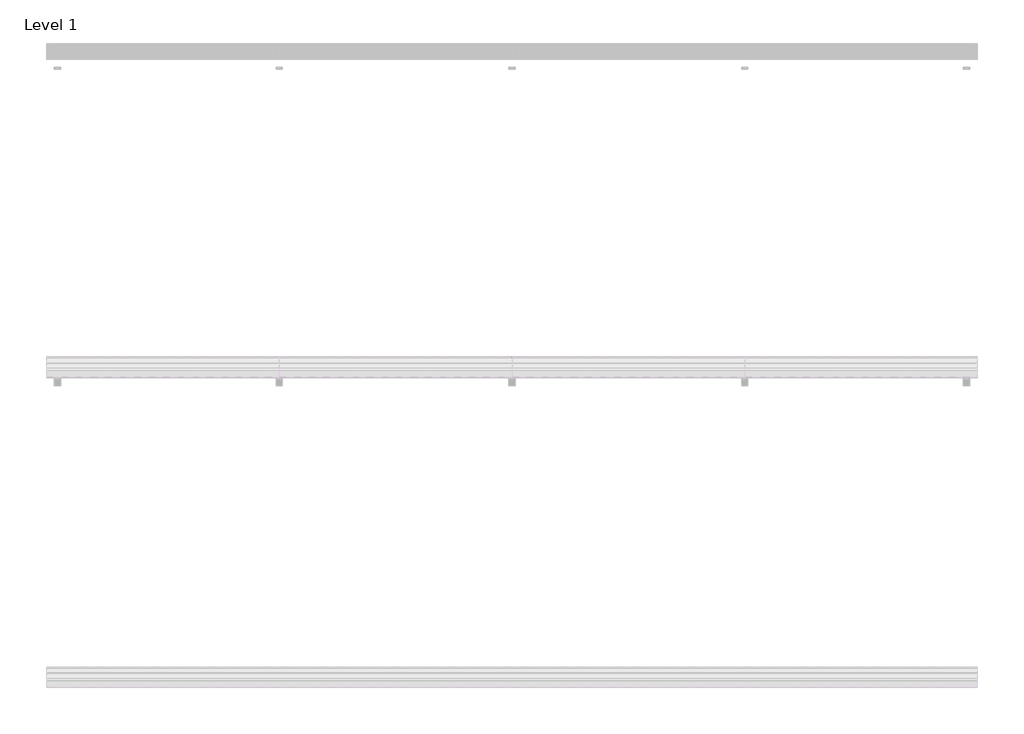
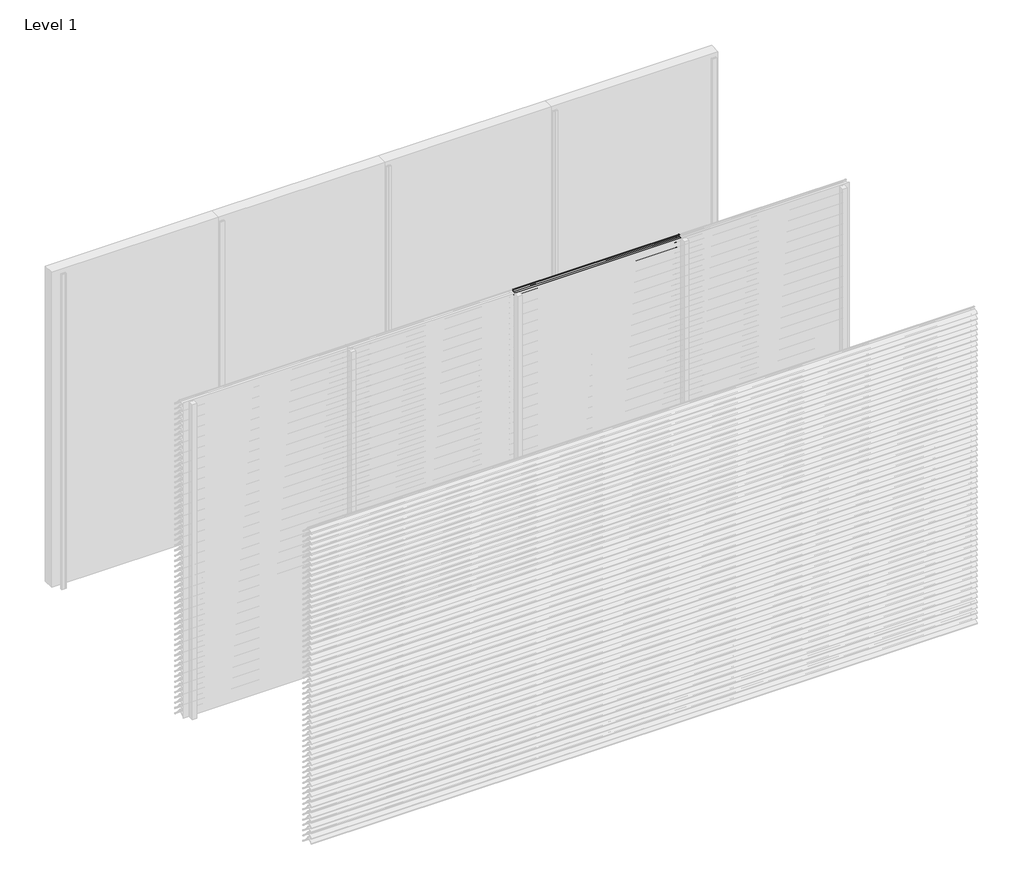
# One storey, part 81 of 173: 18 proxies.
"""IFC4 building model written with IfcOpenShell, lengths in millimetres."""

from ifc_helpers import new_model, si_unit, point, frame, frame_2d, origin, place, context, project, spatial, polyline, circle_curve, trimmed, segment, composite_curve, outline, extrude, element, save

model = new_model("IFC4")

# Units and contexts
model_context = context("Model", 3, world=origin())
ifc_project = project(units=[si_unit("LENGTHUNIT", "METRE", prefix="MILLI")], contexts=[model_context])

# Site, building, storey
site = spatial("IfcSite", under=ifc_project)
building = spatial("IfcBuilding", under=site)
storey = spatial("IfcBuildingStorey", under=building, Name="Level 1", Elevation=0.0)

# Proxies
placement = place(None, origin())
element("IfcBuildingElementProxy", 1, Name="Wall Sweeps", at=placement, inside=storey, context=model_context, shape_type="SweptSolid", body=[
    extrude(outline(composite_curve([segment(polyline([(-29998.0, 709.1474905), (-29998.0, 711.6227417)]), True, "CONTINUOUS"), segment(trimmed(circle_curve(frame_2d((-29951.2682172, 666.2200208)), 65.1557103), [point((-29998.0, 711.6227417))], [point((-29954.4014323, 731.3003524))], False, "CARTESIAN"), True, "CONTINUOUS"), segment(polyline([(-29954.4014323, 731.3003524), (-29934.8315836, 731.3003524)]), True, "CONTINUOUS"), segment(trimmed(circle_curve(frame_2d((-29732.7329489, 878.5533172)), 250.0545817), [point((-29934.8315836, 731.3003524))], [point((-29941.4452143, 740.8344583))], False, "CARTESIAN"), True, "CONTINUOUS"), segment(trimmed(circle_curve(frame_2d((-29953.2981792, 735.1737835)), 13.1352966), [point((-29941.4452143, 740.8344583))], [point((-29953.8171475, 748.298824))], True, "CARTESIAN"), True, "CONTINUOUS"), segment(polyline([(-29953.8171475, 748.298824), (-29953.8171475, 750.0)]), True, "CONTINUOUS"), segment(trimmed(circle_curve(frame_2d((-29953.2981792, 735.1737835)), 14.8352966), [point((-29953.8171475, 750.0))], [point((-29939.9637661, 741.6760487))], False, "CARTESIAN"), True, "CONTINUOUS"), segment(trimmed(circle_curve(frame_2d((-29732.7329489, 878.5533172)), 248.3545817), [point((-29939.9637661, 741.6760487))], [point((-29873.8787895, 674.2059416))], True, "CARTESIAN"), True, "CONTINUOUS"), segment(trimmed(circle_curve(frame_2d((-29883.8147537, 661.6649442)), 16.0), [point((-29873.8787895, 674.2059416))], [point((-29867.8648347, 660.4))], False, "CARTESIAN"), True, "CONTINUOUS"), segment(polyline([(-29867.8648347, 660.4), (-29869.6712069, 660.4)]), True, "CONTINUOUS"), segment(trimmed(circle_curve(frame_2d((-29883.8147537, 661.6649442)), 14.2), [point((-29869.6712069, 660.4))], [point((-29874.9518628, 672.7594998))], True, "CARTESIAN"), True, "CONTINUOUS"), segment(trimmed(circle_curve(frame_2d((-29732.7329489, 878.5533172)), 250.1545817), [point((-29874.9518628, 672.7594998))], [point((-29933.7064024, 729.6003524))], False, "CARTESIAN"), True, "CONTINUOUS"), segment(polyline([(-29933.7064024, 729.6003524), (-29954.3602632, 729.6003524)]), True, "CONTINUOUS"), segment(trimmed(circle_curve(frame_2d((-29951.2682172, 666.2200208)), 63.4557103), [point((-29954.3602632, 729.6003524))], [point((-29998.0, 709.1474905))], True, "CARTESIAN"), True, "CONTINUOUS")], self_intersect=False)), frame((1500.0, 0.0, 0.0), z_axis=(1.0, 0.0, 0.0), x_axis=(0.0, 1.0, 0.0)), (0.0, 0.0, 1.0), 1500.0),
])
element("IfcBuildingElementProxy", 2, Name="Wall Sweeps", at=placement, inside=storey, context=model_context, shape_type="SweptSolid", body=[
    extrude(outline(composite_curve([segment(polyline([(-29998.0, 659.1474905), (-29998.0, 661.6227417)]), True, "CONTINUOUS"), segment(trimmed(circle_curve(frame_2d((-29951.2682172, 616.2200208)), 65.1557103), [point((-29998.0, 661.6227417))], [point((-29954.4014323, 681.3003524))], False, "CARTESIAN"), True, "CONTINUOUS"), segment(polyline([(-29954.4014323, 681.3003524), (-29934.8315836, 681.3003524)]), True, "CONTINUOUS"), segment(trimmed(circle_curve(frame_2d((-29732.7329489, 828.5533172)), 250.0545817), [point((-29934.8315836, 681.3003524))], [point((-29941.4452143, 690.8344583))], False, "CARTESIAN"), True, "CONTINUOUS"), segment(trimmed(circle_curve(frame_2d((-29953.2981792, 685.1737835)), 13.1352966), [point((-29941.4452143, 690.8344583))], [point((-29953.8171475, 698.298824))], True, "CARTESIAN"), True, "CONTINUOUS"), segment(polyline([(-29953.8171475, 698.298824), (-29953.8171475, 700.0)]), True, "CONTINUOUS"), segment(trimmed(circle_curve(frame_2d((-29953.2981792, 685.1737835)), 14.8352966), [point((-29953.8171475, 700.0))], [point((-29939.9637661, 691.6760487))], False, "CARTESIAN"), True, "CONTINUOUS"), segment(trimmed(circle_curve(frame_2d((-29732.7329489, 828.5533172)), 248.3545817), [point((-29939.9637661, 691.6760487))], [point((-29873.8787895, 624.2059416))], True, "CARTESIAN"), True, "CONTINUOUS"), segment(trimmed(circle_curve(frame_2d((-29883.8147537, 611.6649442)), 16.0), [point((-29873.8787895, 624.2059416))], [point((-29867.8648347, 610.4))], False, "CARTESIAN"), True, "CONTINUOUS"), segment(polyline([(-29867.8648347, 610.4), (-29869.6712069, 610.4)]), True, "CONTINUOUS"), segment(trimmed(circle_curve(frame_2d((-29883.8147537, 611.6649442)), 14.2), [point((-29869.6712069, 610.4))], [point((-29874.9518628, 622.7594998))], True, "CARTESIAN"), True, "CONTINUOUS"), segment(trimmed(circle_curve(frame_2d((-29732.7329489, 828.5533172)), 250.1545817), [point((-29874.9518628, 622.7594998))], [point((-29933.7064024, 679.6003524))], False, "CARTESIAN"), True, "CONTINUOUS"), segment(polyline([(-29933.7064024, 679.6003524), (-29954.3602632, 679.6003524)]), True, "CONTINUOUS"), segment(trimmed(circle_curve(frame_2d((-29951.2682172, 616.2200208)), 63.4557103), [point((-29954.3602632, 679.6003524))], [point((-29998.0, 659.1474905))], True, "CARTESIAN"), True, "CONTINUOUS")], self_intersect=False)), frame((1500.0, 0.0, 0.0), z_axis=(1.0, 0.0, 0.0), x_axis=(0.0, 1.0, 0.0)), (0.0, 0.0, 1.0), 1500.0),
])
element("IfcBuildingElementProxy", 3, Name="Wall Sweeps", at=placement, inside=storey, context=model_context, shape_type="SweptSolid", body=[
    extrude(outline(composite_curve([segment(polyline([(-29998.0, 609.1474905), (-29998.0, 611.6227417)]), True, "CONTINUOUS"), segment(trimmed(circle_curve(frame_2d((-29951.2682172, 566.2200208)), 65.1557103), [point((-29998.0, 611.6227417))], [point((-29954.4014323, 631.3003524))], False, "CARTESIAN"), True, "CONTINUOUS"), segment(polyline([(-29954.4014323, 631.3003524), (-29934.8315836, 631.3003524)]), True, "CONTINUOUS"), segment(trimmed(circle_curve(frame_2d((-29732.7329489, 778.5533172)), 250.0545817), [point((-29934.8315836, 631.3003524))], [point((-29941.4452143, 640.8344583))], False, "CARTESIAN"), True, "CONTINUOUS"), segment(trimmed(circle_curve(frame_2d((-29953.2981792, 635.1737835)), 13.1352966), [point((-29941.4452143, 640.8344583))], [point((-29953.8171475, 648.298824))], True, "CARTESIAN"), True, "CONTINUOUS"), segment(polyline([(-29953.8171475, 648.298824), (-29953.8171475, 650.0)]), True, "CONTINUOUS"), segment(trimmed(circle_curve(frame_2d((-29953.2981792, 635.1737835)), 14.8352966), [point((-29953.8171475, 650.0))], [point((-29939.9637661, 641.6760487))], False, "CARTESIAN"), True, "CONTINUOUS"), segment(trimmed(circle_curve(frame_2d((-29732.7329489, 778.5533172)), 248.3545817), [point((-29939.9637661, 641.6760487))], [point((-29873.8787895, 574.2059416))], True, "CARTESIAN"), True, "CONTINUOUS"), segment(trimmed(circle_curve(frame_2d((-29883.8147537, 561.6649442)), 16.0), [point((-29873.8787895, 574.2059416))], [point((-29867.8648347, 560.4))], False, "CARTESIAN"), True, "CONTINUOUS"), segment(polyline([(-29867.8648347, 560.4), (-29869.6712069, 560.4)]), True, "CONTINUOUS"), segment(trimmed(circle_curve(frame_2d((-29883.8147537, 561.6649442)), 14.2), [point((-29869.6712069, 560.4))], [point((-29874.9518628, 572.7594998))], True, "CARTESIAN"), True, "CONTINUOUS"), segment(trimmed(circle_curve(frame_2d((-29732.7329489, 778.5533172)), 250.1545817), [point((-29874.9518628, 572.7594998))], [point((-29933.7064024, 629.6003524))], False, "CARTESIAN"), True, "CONTINUOUS"), segment(polyline([(-29933.7064024, 629.6003524), (-29954.3602632, 629.6003524)]), True, "CONTINUOUS"), segment(trimmed(circle_curve(frame_2d((-29951.2682172, 566.2200208)), 63.4557103), [point((-29954.3602632, 629.6003524))], [point((-29998.0, 609.1474905))], True, "CARTESIAN"), True, "CONTINUOUS")], self_intersect=False)), frame((1500.0, 0.0, 0.0), z_axis=(1.0, 0.0, 0.0), x_axis=(0.0, 1.0, 0.0)), (0.0, 0.0, 1.0), 1500.0),
])
element("IfcBuildingElementProxy", 4, Name="Wall Sweeps", at=placement, inside=storey, context=model_context, shape_type="SweptSolid", body=[
    extrude(outline(composite_curve([segment(polyline([(-29998.0, 559.1474905), (-29998.0, 561.6227417)]), True, "CONTINUOUS"), segment(trimmed(circle_curve(frame_2d((-29951.2682172, 516.2200208)), 65.1557103), [point((-29998.0, 561.6227417))], [point((-29954.4014323, 581.3003524))], False, "CARTESIAN"), True, "CONTINUOUS"), segment(polyline([(-29954.4014323, 581.3003524), (-29934.8315836, 581.3003524)]), True, "CONTINUOUS"), segment(trimmed(circle_curve(frame_2d((-29732.7329489, 728.5533172)), 250.0545817), [point((-29934.8315836, 581.3003524))], [point((-29941.4452143, 590.8344583))], False, "CARTESIAN"), True, "CONTINUOUS"), segment(trimmed(circle_curve(frame_2d((-29953.2981792, 585.1737835)), 13.1352966), [point((-29941.4452143, 590.8344583))], [point((-29953.8171475, 598.298824))], True, "CARTESIAN"), True, "CONTINUOUS"), segment(polyline([(-29953.8171475, 598.298824), (-29953.8171475, 600.0)]), True, "CONTINUOUS"), segment(trimmed(circle_curve(frame_2d((-29953.2981792, 585.1737835)), 14.8352966), [point((-29953.8171475, 600.0))], [point((-29939.9637661, 591.6760487))], False, "CARTESIAN"), True, "CONTINUOUS"), segment(trimmed(circle_curve(frame_2d((-29732.7329489, 728.5533172)), 248.3545817), [point((-29939.9637661, 591.6760487))], [point((-29873.8787895, 524.2059416))], True, "CARTESIAN"), True, "CONTINUOUS"), segment(trimmed(circle_curve(frame_2d((-29883.8147537, 511.6649442)), 16.0), [point((-29873.8787895, 524.2059416))], [point((-29867.8648347, 510.4))], False, "CARTESIAN"), True, "CONTINUOUS"), segment(polyline([(-29867.8648347, 510.4), (-29869.6712069, 510.4)]), True, "CONTINUOUS"), segment(trimmed(circle_curve(frame_2d((-29883.8147537, 511.6649442)), 14.2), [point((-29869.6712069, 510.4))], [point((-29874.9518628, 522.7594998))], True, "CARTESIAN"), True, "CONTINUOUS"), segment(trimmed(circle_curve(frame_2d((-29732.7329489, 728.5533172)), 250.1545817), [point((-29874.9518628, 522.7594998))], [point((-29933.7064024, 579.6003524))], False, "CARTESIAN"), True, "CONTINUOUS"), segment(polyline([(-29933.7064024, 579.6003524), (-29954.3602632, 579.6003524)]), True, "CONTINUOUS"), segment(trimmed(circle_curve(frame_2d((-29951.2682172, 516.2200208)), 63.4557103), [point((-29954.3602632, 579.6003524))], [point((-29998.0, 559.1474905))], True, "CARTESIAN"), True, "CONTINUOUS")], self_intersect=False)), frame((1500.0, 0.0, 0.0), z_axis=(1.0, 0.0, 0.0), x_axis=(0.0, 1.0, 0.0)), (0.0, 0.0, 1.0), 1500.0),
])
element("IfcBuildingElementProxy", 5, Name="Wall Sweeps", at=placement, inside=storey, context=model_context, shape_type="SweptSolid", body=[
    extrude(outline(composite_curve([segment(polyline([(-29998.0, 509.1474905), (-29998.0, 511.6227417)]), True, "CONTINUOUS"), segment(trimmed(circle_curve(frame_2d((-29951.2682172, 466.2200208)), 65.1557103), [point((-29998.0, 511.6227417))], [point((-29954.4014323, 531.3003524))], False, "CARTESIAN"), True, "CONTINUOUS"), segment(polyline([(-29954.4014323, 531.3003524), (-29934.8315836, 531.3003524)]), True, "CONTINUOUS"), segment(trimmed(circle_curve(frame_2d((-29732.7329489, 678.5533172)), 250.0545817), [point((-29934.8315836, 531.3003524))], [point((-29941.4452143, 540.8344583))], False, "CARTESIAN"), True, "CONTINUOUS"), segment(trimmed(circle_curve(frame_2d((-29953.2981792, 535.1737835)), 13.1352966), [point((-29941.4452143, 540.8344583))], [point((-29953.8171475, 548.298824))], True, "CARTESIAN"), True, "CONTINUOUS"), segment(polyline([(-29953.8171475, 548.298824), (-29953.8171475, 550.0)]), True, "CONTINUOUS"), segment(trimmed(circle_curve(frame_2d((-29953.2981792, 535.1737835)), 14.8352966), [point((-29953.8171475, 550.0))], [point((-29939.9637661, 541.6760487))], False, "CARTESIAN"), True, "CONTINUOUS"), segment(trimmed(circle_curve(frame_2d((-29732.7329489, 678.5533172)), 248.3545817), [point((-29939.9637661, 541.6760487))], [point((-29873.8787895, 474.2059416))], True, "CARTESIAN"), True, "CONTINUOUS"), segment(trimmed(circle_curve(frame_2d((-29883.8147537, 461.6649442)), 16.0), [point((-29873.8787895, 474.2059416))], [point((-29867.8648347, 460.4))], False, "CARTESIAN"), True, "CONTINUOUS"), segment(polyline([(-29867.8648347, 460.4), (-29869.6712069, 460.4)]), True, "CONTINUOUS"), segment(trimmed(circle_curve(frame_2d((-29883.8147537, 461.6649442)), 14.2), [point((-29869.6712069, 460.4))], [point((-29874.9518628, 472.7594998))], True, "CARTESIAN"), True, "CONTINUOUS"), segment(trimmed(circle_curve(frame_2d((-29732.7329489, 678.5533172)), 250.1545817), [point((-29874.9518628, 472.7594998))], [point((-29933.7064024, 529.6003524))], False, "CARTESIAN"), True, "CONTINUOUS"), segment(polyline([(-29933.7064024, 529.6003524), (-29954.3602632, 529.6003524)]), True, "CONTINUOUS"), segment(trimmed(circle_curve(frame_2d((-29951.2682172, 466.2200208)), 63.4557103), [point((-29954.3602632, 529.6003524))], [point((-29998.0, 509.1474905))], True, "CARTESIAN"), True, "CONTINUOUS")], self_intersect=False)), frame((1500.0, 0.0, 0.0), z_axis=(1.0, 0.0, 0.0), x_axis=(0.0, 1.0, 0.0)), (0.0, 0.0, 1.0), 1500.0),
])
element("IfcBuildingElementProxy", 6, Name="Wall Sweeps", at=placement, inside=storey, context=model_context, shape_type="SweptSolid", body=[
    extrude(outline(composite_curve([segment(polyline([(-29998.0, 459.1474905), (-29998.0, 461.6227417)]), True, "CONTINUOUS"), segment(trimmed(circle_curve(frame_2d((-29951.2682172, 416.2200208)), 65.1557103), [point((-29998.0, 461.6227417))], [point((-29954.4014323, 481.3003524))], False, "CARTESIAN"), True, "CONTINUOUS"), segment(polyline([(-29954.4014323, 481.3003524), (-29934.8315836, 481.3003524)]), True, "CONTINUOUS"), segment(trimmed(circle_curve(frame_2d((-29732.7329489, 628.5533172)), 250.0545817), [point((-29934.8315836, 481.3003524))], [point((-29941.4452143, 490.8344583))], False, "CARTESIAN"), True, "CONTINUOUS"), segment(trimmed(circle_curve(frame_2d((-29953.2981792, 485.1737835)), 13.1352966), [point((-29941.4452143, 490.8344583))], [point((-29953.8171475, 498.298824))], True, "CARTESIAN"), True, "CONTINUOUS"), segment(polyline([(-29953.8171475, 498.298824), (-29953.8171475, 500.0)]), True, "CONTINUOUS"), segment(trimmed(circle_curve(frame_2d((-29953.2981792, 485.1737835)), 14.8352966), [point((-29953.8171475, 500.0))], [point((-29939.9637661, 491.6760487))], False, "CARTESIAN"), True, "CONTINUOUS"), segment(trimmed(circle_curve(frame_2d((-29732.7329489, 628.5533172)), 248.3545817), [point((-29939.9637661, 491.6760487))], [point((-29873.8787895, 424.2059416))], True, "CARTESIAN"), True, "CONTINUOUS"), segment(trimmed(circle_curve(frame_2d((-29883.8147537, 411.6649442)), 16.0), [point((-29873.8787895, 424.2059416))], [point((-29867.8648347, 410.4))], False, "CARTESIAN"), True, "CONTINUOUS"), segment(polyline([(-29867.8648347, 410.4), (-29869.6712069, 410.4)]), True, "CONTINUOUS"), segment(trimmed(circle_curve(frame_2d((-29883.8147537, 411.6649442)), 14.2), [point((-29869.6712069, 410.4))], [point((-29874.9518628, 422.7594998))], True, "CARTESIAN"), True, "CONTINUOUS"), segment(trimmed(circle_curve(frame_2d((-29732.7329489, 628.5533172)), 250.1545817), [point((-29874.9518628, 422.7594998))], [point((-29933.7064024, 479.6003524))], False, "CARTESIAN"), True, "CONTINUOUS"), segment(polyline([(-29933.7064024, 479.6003524), (-29954.3602632, 479.6003524)]), True, "CONTINUOUS"), segment(trimmed(circle_curve(frame_2d((-29951.2682172, 416.2200208)), 63.4557103), [point((-29954.3602632, 479.6003524))], [point((-29998.0, 459.1474905))], True, "CARTESIAN"), True, "CONTINUOUS")], self_intersect=False)), frame((1500.0, 0.0, 0.0), z_axis=(1.0, 0.0, 0.0), x_axis=(0.0, 1.0, 0.0)), (0.0, 0.0, 1.0), 1500.0),
])
element("IfcBuildingElementProxy", 7, Name="Wall Sweeps", at=placement, inside=storey, context=model_context, shape_type="SweptSolid", body=[
    extrude(outline(composite_curve([segment(polyline([(-29998.0, 409.1474905), (-29998.0, 411.6227417)]), True, "CONTINUOUS"), segment(trimmed(circle_curve(frame_2d((-29951.2682172, 366.2200208)), 65.1557103), [point((-29998.0, 411.6227417))], [point((-29954.4014323, 431.3003524))], False, "CARTESIAN"), True, "CONTINUOUS"), segment(polyline([(-29954.4014323, 431.3003524), (-29934.8315836, 431.3003524)]), True, "CONTINUOUS"), segment(trimmed(circle_curve(frame_2d((-29732.7329489, 578.5533172)), 250.0545817), [point((-29934.8315836, 431.3003524))], [point((-29941.4452143, 440.8344583))], False, "CARTESIAN"), True, "CONTINUOUS"), segment(trimmed(circle_curve(frame_2d((-29953.2981792, 435.1737835)), 13.1352966), [point((-29941.4452143, 440.8344583))], [point((-29953.8171475, 448.298824))], True, "CARTESIAN"), True, "CONTINUOUS"), segment(polyline([(-29953.8171475, 448.298824), (-29953.8171475, 450.0)]), True, "CONTINUOUS"), segment(trimmed(circle_curve(frame_2d((-29953.2981792, 435.1737835)), 14.8352966), [point((-29953.8171475, 450.0))], [point((-29939.9637661, 441.6760487))], False, "CARTESIAN"), True, "CONTINUOUS"), segment(trimmed(circle_curve(frame_2d((-29732.7329489, 578.5533172)), 248.3545817), [point((-29939.9637661, 441.6760487))], [point((-29873.8787895, 374.2059416))], True, "CARTESIAN"), True, "CONTINUOUS"), segment(trimmed(circle_curve(frame_2d((-29883.8147537, 361.6649442)), 16.0), [point((-29873.8787895, 374.2059416))], [point((-29867.8648347, 360.4))], False, "CARTESIAN"), True, "CONTINUOUS"), segment(polyline([(-29867.8648347, 360.4), (-29869.6712069, 360.4)]), True, "CONTINUOUS"), segment(trimmed(circle_curve(frame_2d((-29883.8147537, 361.6649442)), 14.2), [point((-29869.6712069, 360.4))], [point((-29874.9518628, 372.7594998))], True, "CARTESIAN"), True, "CONTINUOUS"), segment(trimmed(circle_curve(frame_2d((-29732.7329489, 578.5533172)), 250.1545817), [point((-29874.9518628, 372.7594998))], [point((-29933.7064024, 429.6003524))], False, "CARTESIAN"), True, "CONTINUOUS"), segment(polyline([(-29933.7064024, 429.6003524), (-29954.3602632, 429.6003524)]), True, "CONTINUOUS"), segment(trimmed(circle_curve(frame_2d((-29951.2682172, 366.2200208)), 63.4557103), [point((-29954.3602632, 429.6003524))], [point((-29998.0, 409.1474905))], True, "CARTESIAN"), True, "CONTINUOUS")], self_intersect=False)), frame((1500.0, 0.0, 0.0), z_axis=(1.0, 0.0, 0.0), x_axis=(0.0, 1.0, 0.0)), (0.0, 0.0, 1.0), 1500.0),
])
element("IfcBuildingElementProxy", 8, Name="Wall Sweeps", at=placement, inside=storey, context=model_context, shape_type="SweptSolid", body=[
    extrude(outline(composite_curve([segment(polyline([(-29998.0, 359.1474905), (-29998.0, 361.6227417)]), True, "CONTINUOUS"), segment(trimmed(circle_curve(frame_2d((-29951.2682172, 316.2200208)), 65.1557103), [point((-29998.0, 361.6227417))], [point((-29954.4014323, 381.3003524))], False, "CARTESIAN"), True, "CONTINUOUS"), segment(polyline([(-29954.4014323, 381.3003524), (-29934.8315836, 381.3003524)]), True, "CONTINUOUS"), segment(trimmed(circle_curve(frame_2d((-29732.7329489, 528.5533172)), 250.0545817), [point((-29934.8315836, 381.3003524))], [point((-29941.4452143, 390.8344583))], False, "CARTESIAN"), True, "CONTINUOUS"), segment(trimmed(circle_curve(frame_2d((-29953.2981792, 385.1737835)), 13.1352966), [point((-29941.4452143, 390.8344583))], [point((-29953.8171475, 398.298824))], True, "CARTESIAN"), True, "CONTINUOUS"), segment(polyline([(-29953.8171475, 398.298824), (-29953.8171475, 400.0)]), True, "CONTINUOUS"), segment(trimmed(circle_curve(frame_2d((-29953.2981792, 385.1737835)), 14.8352966), [point((-29953.8171475, 400.0))], [point((-29939.9637661, 391.6760487))], False, "CARTESIAN"), True, "CONTINUOUS"), segment(trimmed(circle_curve(frame_2d((-29732.7329489, 528.5533172)), 248.3545817), [point((-29939.9637661, 391.6760487))], [point((-29873.8787895, 324.2059416))], True, "CARTESIAN"), True, "CONTINUOUS"), segment(trimmed(circle_curve(frame_2d((-29883.8147537, 311.6649442)), 16.0), [point((-29873.8787895, 324.2059416))], [point((-29867.8648347, 310.4))], False, "CARTESIAN"), True, "CONTINUOUS"), segment(polyline([(-29867.8648347, 310.4), (-29869.6712069, 310.4)]), True, "CONTINUOUS"), segment(trimmed(circle_curve(frame_2d((-29883.8147537, 311.6649442)), 14.2), [point((-29869.6712069, 310.4))], [point((-29874.9518628, 322.7594998))], True, "CARTESIAN"), True, "CONTINUOUS"), segment(trimmed(circle_curve(frame_2d((-29732.7329489, 528.5533172)), 250.1545817), [point((-29874.9518628, 322.7594998))], [point((-29933.7064024, 379.6003524))], False, "CARTESIAN"), True, "CONTINUOUS"), segment(polyline([(-29933.7064024, 379.6003524), (-29954.3602632, 379.6003524)]), True, "CONTINUOUS"), segment(trimmed(circle_curve(frame_2d((-29951.2682172, 316.2200208)), 63.4557103), [point((-29954.3602632, 379.6003524))], [point((-29998.0, 359.1474905))], True, "CARTESIAN"), True, "CONTINUOUS")], self_intersect=False)), frame((1500.0, 0.0, 0.0), z_axis=(1.0, 0.0, 0.0), x_axis=(0.0, 1.0, 0.0)), (0.0, 0.0, 1.0), 1500.0),
])
element("IfcBuildingElementProxy", 9, Name="Wall Sweeps", at=placement, inside=storey, context=model_context, shape_type="SweptSolid", body=[
    extrude(outline(composite_curve([segment(polyline([(-29998.0, 309.1474905), (-29998.0, 311.6227417)]), True, "CONTINUOUS"), segment(trimmed(circle_curve(frame_2d((-29951.2682172, 266.2200208)), 65.1557103), [point((-29998.0, 311.6227417))], [point((-29954.4014323, 331.3003524))], False, "CARTESIAN"), True, "CONTINUOUS"), segment(polyline([(-29954.4014323, 331.3003524), (-29934.8315836, 331.3003524)]), True, "CONTINUOUS"), segment(trimmed(circle_curve(frame_2d((-29732.7329489, 478.5533172)), 250.0545817), [point((-29934.8315836, 331.3003524))], [point((-29941.4452143, 340.8344583))], False, "CARTESIAN"), True, "CONTINUOUS"), segment(trimmed(circle_curve(frame_2d((-29953.2981792, 335.1737835)), 13.1352966), [point((-29941.4452143, 340.8344583))], [point((-29953.8171475, 348.298824))], True, "CARTESIAN"), True, "CONTINUOUS"), segment(polyline([(-29953.8171475, 348.298824), (-29953.8171475, 350.0)]), True, "CONTINUOUS"), segment(trimmed(circle_curve(frame_2d((-29953.2981792, 335.1737835)), 14.8352966), [point((-29953.8171475, 350.0))], [point((-29939.9637661, 341.6760487))], False, "CARTESIAN"), True, "CONTINUOUS"), segment(trimmed(circle_curve(frame_2d((-29732.7329489, 478.5533172)), 248.3545817), [point((-29939.9637661, 341.6760487))], [point((-29873.8787895, 274.2059416))], True, "CARTESIAN"), True, "CONTINUOUS"), segment(trimmed(circle_curve(frame_2d((-29883.8147537, 261.6649442)), 16.0), [point((-29873.8787895, 274.2059416))], [point((-29867.8648347, 260.4))], False, "CARTESIAN"), True, "CONTINUOUS"), segment(polyline([(-29867.8648347, 260.4), (-29869.6712069, 260.4)]), True, "CONTINUOUS"), segment(trimmed(circle_curve(frame_2d((-29883.8147537, 261.6649442)), 14.2), [point((-29869.6712069, 260.4))], [point((-29874.9518628, 272.7594998))], True, "CARTESIAN"), True, "CONTINUOUS"), segment(trimmed(circle_curve(frame_2d((-29732.7329489, 478.5533172)), 250.1545817), [point((-29874.9518628, 272.7594998))], [point((-29933.7064024, 329.6003524))], False, "CARTESIAN"), True, "CONTINUOUS"), segment(polyline([(-29933.7064024, 329.6003524), (-29954.3602632, 329.6003524)]), True, "CONTINUOUS"), segment(trimmed(circle_curve(frame_2d((-29951.2682172, 266.2200208)), 63.4557103), [point((-29954.3602632, 329.6003524))], [point((-29998.0, 309.1474905))], True, "CARTESIAN"), True, "CONTINUOUS")], self_intersect=False)), frame((1500.0, 0.0, 0.0), z_axis=(1.0, 0.0, 0.0), x_axis=(0.0, 1.0, 0.0)), (0.0, 0.0, 1.0), 1500.0),
])
element("IfcBuildingElementProxy", 10, Name="Wall Sweeps", at=placement, inside=storey, context=model_context, shape_type="SweptSolid", body=[
    extrude(outline(composite_curve([segment(polyline([(-29998.0, 259.1474905), (-29998.0, 261.6227417)]), True, "CONTINUOUS"), segment(trimmed(circle_curve(frame_2d((-29951.2682172, 216.2200208)), 65.1557103), [point((-29998.0, 261.6227417))], [point((-29954.4014323, 281.3003524))], False, "CARTESIAN"), True, "CONTINUOUS"), segment(polyline([(-29954.4014323, 281.3003524), (-29934.8315836, 281.3003524)]), True, "CONTINUOUS"), segment(trimmed(circle_curve(frame_2d((-29732.7329489, 428.5533172)), 250.0545817), [point((-29934.8315836, 281.3003524))], [point((-29941.4452143, 290.8344583))], False, "CARTESIAN"), True, "CONTINUOUS"), segment(trimmed(circle_curve(frame_2d((-29953.2981792, 285.1737835)), 13.1352966), [point((-29941.4452143, 290.8344583))], [point((-29953.8171475, 298.298824))], True, "CARTESIAN"), True, "CONTINUOUS"), segment(polyline([(-29953.8171475, 298.298824), (-29953.8171475, 300.0)]), True, "CONTINUOUS"), segment(trimmed(circle_curve(frame_2d((-29953.2981792, 285.1737835)), 14.8352966), [point((-29953.8171475, 300.0))], [point((-29939.9637661, 291.6760487))], False, "CARTESIAN"), True, "CONTINUOUS"), segment(trimmed(circle_curve(frame_2d((-29732.7329489, 428.5533172)), 248.3545817), [point((-29939.9637661, 291.6760487))], [point((-29873.8787895, 224.2059416))], True, "CARTESIAN"), True, "CONTINUOUS"), segment(trimmed(circle_curve(frame_2d((-29883.8147537, 211.6649442)), 16.0), [point((-29873.8787895, 224.2059416))], [point((-29867.8648347, 210.4))], False, "CARTESIAN"), True, "CONTINUOUS"), segment(polyline([(-29867.8648347, 210.4), (-29869.6712069, 210.4)]), True, "CONTINUOUS"), segment(trimmed(circle_curve(frame_2d((-29883.8147537, 211.6649442)), 14.2), [point((-29869.6712069, 210.4))], [point((-29874.9518628, 222.7594998))], True, "CARTESIAN"), True, "CONTINUOUS"), segment(trimmed(circle_curve(frame_2d((-29732.7329489, 428.5533172)), 250.1545817), [point((-29874.9518628, 222.7594998))], [point((-29933.7064024, 279.6003524))], False, "CARTESIAN"), True, "CONTINUOUS"), segment(polyline([(-29933.7064024, 279.6003524), (-29954.3602632, 279.6003524)]), True, "CONTINUOUS"), segment(trimmed(circle_curve(frame_2d((-29951.2682172, 216.2200208)), 63.4557103), [point((-29954.3602632, 279.6003524))], [point((-29998.0, 259.1474905))], True, "CARTESIAN"), True, "CONTINUOUS")], self_intersect=False)), frame((1500.0, 0.0, 0.0), z_axis=(1.0, 0.0, 0.0), x_axis=(0.0, 1.0, 0.0)), (0.0, 0.0, 1.0), 1500.0),
])
element("IfcBuildingElementProxy", 11, Name="Wall Sweeps", at=placement, inside=storey, context=model_context, shape_type="SweptSolid", body=[
    extrude(outline(composite_curve([segment(polyline([(-29998.0, 209.1474905), (-29998.0, 211.6227417)]), True, "CONTINUOUS"), segment(trimmed(circle_curve(frame_2d((-29951.2682172, 166.2200208)), 65.1557103), [point((-29998.0, 211.6227417))], [point((-29954.4014323, 231.3003524))], False, "CARTESIAN"), True, "CONTINUOUS"), segment(polyline([(-29954.4014323, 231.3003524), (-29934.8315836, 231.3003524)]), True, "CONTINUOUS"), segment(trimmed(circle_curve(frame_2d((-29732.7329489, 378.5533172)), 250.0545817), [point((-29934.8315836, 231.3003524))], [point((-29941.4452143, 240.8344583))], False, "CARTESIAN"), True, "CONTINUOUS"), segment(trimmed(circle_curve(frame_2d((-29953.2981792, 235.1737835)), 13.1352966), [point((-29941.4452143, 240.8344583))], [point((-29953.8171475, 248.298824))], True, "CARTESIAN"), True, "CONTINUOUS"), segment(polyline([(-29953.8171475, 248.298824), (-29953.8171475, 250.0)]), True, "CONTINUOUS"), segment(trimmed(circle_curve(frame_2d((-29953.2981792, 235.1737835)), 14.8352966), [point((-29953.8171475, 250.0))], [point((-29939.9637661, 241.6760487))], False, "CARTESIAN"), True, "CONTINUOUS"), segment(trimmed(circle_curve(frame_2d((-29732.7329489, 378.5533172)), 248.3545817), [point((-29939.9637661, 241.6760487))], [point((-29873.8787895, 174.2059416))], True, "CARTESIAN"), True, "CONTINUOUS"), segment(trimmed(circle_curve(frame_2d((-29883.8147537, 161.6649442)), 16.0), [point((-29873.8787895, 174.2059416))], [point((-29867.8648347, 160.4))], False, "CARTESIAN"), True, "CONTINUOUS"), segment(polyline([(-29867.8648347, 160.4), (-29869.6712069, 160.4)]), True, "CONTINUOUS"), segment(trimmed(circle_curve(frame_2d((-29883.8147537, 161.6649442)), 14.2), [point((-29869.6712069, 160.4))], [point((-29874.9518628, 172.7594998))], True, "CARTESIAN"), True, "CONTINUOUS"), segment(trimmed(circle_curve(frame_2d((-29732.7329489, 378.5533172)), 250.1545817), [point((-29874.9518628, 172.7594998))], [point((-29933.7064024, 229.6003524))], False, "CARTESIAN"), True, "CONTINUOUS"), segment(polyline([(-29933.7064024, 229.6003524), (-29954.3602632, 229.6003524)]), True, "CONTINUOUS"), segment(trimmed(circle_curve(frame_2d((-29951.2682172, 166.2200208)), 63.4557103), [point((-29954.3602632, 229.6003524))], [point((-29998.0, 209.1474905))], True, "CARTESIAN"), True, "CONTINUOUS")], self_intersect=False)), frame((1500.0, 0.0, 0.0), z_axis=(1.0, 0.0, 0.0), x_axis=(0.0, 1.0, 0.0)), (0.0, 0.0, 1.0), 1500.0),
])
element("IfcBuildingElementProxy", 12, Name="Wall Sweeps", at=placement, inside=storey, context=model_context, shape_type="SweptSolid", body=[
    extrude(outline(composite_curve([segment(polyline([(-29998.0, 159.1474905), (-29998.0, 161.6227417)]), True, "CONTINUOUS"), segment(trimmed(circle_curve(frame_2d((-29951.2682172, 116.2200208)), 65.1557103), [point((-29998.0, 161.6227417))], [point((-29954.4014323, 181.3003524))], False, "CARTESIAN"), True, "CONTINUOUS"), segment(polyline([(-29954.4014323, 181.3003524), (-29934.8315836, 181.3003524)]), True, "CONTINUOUS"), segment(trimmed(circle_curve(frame_2d((-29732.7329489, 328.5533172)), 250.0545817), [point((-29934.8315836, 181.3003524))], [point((-29941.4452143, 190.8344583))], False, "CARTESIAN"), True, "CONTINUOUS"), segment(trimmed(circle_curve(frame_2d((-29953.2981792, 185.1737835)), 13.1352966), [point((-29941.4452143, 190.8344583))], [point((-29953.8171475, 198.298824))], True, "CARTESIAN"), True, "CONTINUOUS"), segment(polyline([(-29953.8171475, 198.298824), (-29953.8171475, 200.0)]), True, "CONTINUOUS"), segment(trimmed(circle_curve(frame_2d((-29953.2981792, 185.1737835)), 14.8352966), [point((-29953.8171475, 200.0))], [point((-29939.9637661, 191.6760487))], False, "CARTESIAN"), True, "CONTINUOUS"), segment(trimmed(circle_curve(frame_2d((-29732.7329489, 328.5533172)), 248.3545817), [point((-29939.9637661, 191.6760487))], [point((-29873.8787895, 124.2059416))], True, "CARTESIAN"), True, "CONTINUOUS"), segment(trimmed(circle_curve(frame_2d((-29883.8147537, 111.6649442)), 16.0), [point((-29873.8787895, 124.2059416))], [point((-29867.8648347, 110.4))], False, "CARTESIAN"), True, "CONTINUOUS"), segment(polyline([(-29867.8648347, 110.4), (-29869.6712069, 110.4)]), True, "CONTINUOUS"), segment(trimmed(circle_curve(frame_2d((-29883.8147537, 111.6649442)), 14.2), [point((-29869.6712069, 110.4))], [point((-29874.9518628, 122.7594998))], True, "CARTESIAN"), True, "CONTINUOUS"), segment(trimmed(circle_curve(frame_2d((-29732.7329489, 328.5533172)), 250.1545817), [point((-29874.9518628, 122.7594998))], [point((-29933.7064024, 179.6003524))], False, "CARTESIAN"), True, "CONTINUOUS"), segment(polyline([(-29933.7064024, 179.6003524), (-29954.3602632, 179.6003524)]), True, "CONTINUOUS"), segment(trimmed(circle_curve(frame_2d((-29951.2682172, 116.2200208)), 63.4557103), [point((-29954.3602632, 179.6003524))], [point((-29998.0, 159.1474905))], True, "CARTESIAN"), True, "CONTINUOUS")], self_intersect=False)), frame((1500.0, 0.0, 0.0), z_axis=(1.0, 0.0, 0.0), x_axis=(0.0, 1.0, 0.0)), (0.0, 0.0, 1.0), 1500.0),
])
element("IfcBuildingElementProxy", 13, Name="Wall Sweeps", at=placement, inside=storey, context=model_context, shape_type="SweptSolid", body=[
    extrude(outline(composite_curve([segment(polyline([(-29998.0, 109.1474905), (-29998.0, 111.6227417)]), True, "CONTINUOUS"), segment(trimmed(circle_curve(frame_2d((-29951.2682172, 66.2200208)), 65.1557103), [point((-29998.0, 111.6227417))], [point((-29954.4014323, 131.3003524))], False, "CARTESIAN"), True, "CONTINUOUS"), segment(polyline([(-29954.4014323, 131.3003524), (-29934.8315836, 131.3003524)]), True, "CONTINUOUS"), segment(trimmed(circle_curve(frame_2d((-29732.7329489, 278.5533172)), 250.0545817), [point((-29934.8315836, 131.3003524))], [point((-29941.4452143, 140.8344583))], False, "CARTESIAN"), True, "CONTINUOUS"), segment(trimmed(circle_curve(frame_2d((-29953.2981792, 135.1737835)), 13.1352966), [point((-29941.4452143, 140.8344583))], [point((-29953.8171475, 148.298824))], True, "CARTESIAN"), True, "CONTINUOUS"), segment(polyline([(-29953.8171475, 148.298824), (-29953.8171475, 150.0)]), True, "CONTINUOUS"), segment(trimmed(circle_curve(frame_2d((-29953.2981792, 135.1737835)), 14.8352966), [point((-29953.8171475, 150.0))], [point((-29939.9637661, 141.6760487))], False, "CARTESIAN"), True, "CONTINUOUS"), segment(trimmed(circle_curve(frame_2d((-29732.7329489, 278.5533172)), 248.3545817), [point((-29939.9637661, 141.6760487))], [point((-29873.8787895, 74.2059416))], True, "CARTESIAN"), True, "CONTINUOUS"), segment(trimmed(circle_curve(frame_2d((-29883.8147537, 61.6649442)), 16.0), [point((-29873.8787895, 74.2059416))], [point((-29867.8648347, 60.4))], False, "CARTESIAN"), True, "CONTINUOUS"), segment(polyline([(-29867.8648347, 60.4), (-29869.6712069, 60.4)]), True, "CONTINUOUS"), segment(trimmed(circle_curve(frame_2d((-29883.8147537, 61.6649442)), 14.2), [point((-29869.6712069, 60.4))], [point((-29874.9518628, 72.7594998))], True, "CARTESIAN"), True, "CONTINUOUS"), segment(trimmed(circle_curve(frame_2d((-29732.7329489, 278.5533172)), 250.1545817), [point((-29874.9518628, 72.7594998))], [point((-29933.7064024, 129.6003524))], False, "CARTESIAN"), True, "CONTINUOUS"), segment(polyline([(-29933.7064024, 129.6003524), (-29954.3602632, 129.6003524)]), True, "CONTINUOUS"), segment(trimmed(circle_curve(frame_2d((-29951.2682172, 66.2200208)), 63.4557103), [point((-29954.3602632, 129.6003524))], [point((-29998.0, 109.1474905))], True, "CARTESIAN"), True, "CONTINUOUS")], self_intersect=False)), frame((1500.0, 0.0, 0.0), z_axis=(1.0, 0.0, 0.0), x_axis=(0.0, 1.0, 0.0)), (0.0, 0.0, 1.0), 1500.0),
])
element("IfcBuildingElementProxy", 14, Name="Wall Sweeps", at=placement, inside=storey, context=model_context, shape_type="SweptSolid", body=[
    extrude(outline(composite_curve([segment(polyline([(-29998.0, 59.1474905), (-29998.0, 61.6227417)]), True, "CONTINUOUS"), segment(trimmed(circle_curve(frame_2d((-29951.2682172, 16.2200208)), 65.1557103), [point((-29998.0, 61.6227417))], [point((-29954.4014323, 81.3003524))], False, "CARTESIAN"), True, "CONTINUOUS"), segment(polyline([(-29954.4014323, 81.3003524), (-29934.8315836, 81.3003524)]), True, "CONTINUOUS"), segment(trimmed(circle_curve(frame_2d((-29732.7329489, 228.5533172)), 250.0545817), [point((-29934.8315836, 81.3003524))], [point((-29941.4452143, 90.8344583))], False, "CARTESIAN"), True, "CONTINUOUS"), segment(trimmed(circle_curve(frame_2d((-29953.2981792, 85.1737835)), 13.1352966), [point((-29941.4452143, 90.8344583))], [point((-29953.8171475, 98.298824))], True, "CARTESIAN"), True, "CONTINUOUS"), segment(polyline([(-29953.8171475, 98.298824), (-29953.8171475, 100.0)]), True, "CONTINUOUS"), segment(trimmed(circle_curve(frame_2d((-29953.2981792, 85.1737835)), 14.8352966), [point((-29953.8171475, 100.0))], [point((-29939.9637661, 91.6760487))], False, "CARTESIAN"), True, "CONTINUOUS"), segment(trimmed(circle_curve(frame_2d((-29732.7329489, 228.5533172)), 248.3545817), [point((-29939.9637661, 91.6760487))], [point((-29873.8787895, 24.2059416))], True, "CARTESIAN"), True, "CONTINUOUS"), segment(trimmed(circle_curve(frame_2d((-29883.8147537, 11.6649442)), 16.0), [point((-29873.8787895, 24.2059416))], [point((-29867.8648347, 10.4))], False, "CARTESIAN"), True, "CONTINUOUS"), segment(polyline([(-29867.8648347, 10.4), (-29869.6712069, 10.4)]), True, "CONTINUOUS"), segment(trimmed(circle_curve(frame_2d((-29883.8147537, 11.6649442)), 14.2), [point((-29869.6712069, 10.4))], [point((-29874.9518628, 22.7594998))], True, "CARTESIAN"), True, "CONTINUOUS"), segment(trimmed(circle_curve(frame_2d((-29732.7329489, 228.5533172)), 250.1545817), [point((-29874.9518628, 22.7594998))], [point((-29933.7064024, 79.6003524))], False, "CARTESIAN"), True, "CONTINUOUS"), segment(polyline([(-29933.7064024, 79.6003524), (-29954.3602632, 79.6003524)]), True, "CONTINUOUS"), segment(trimmed(circle_curve(frame_2d((-29951.2682172, 16.2200208)), 63.4557103), [point((-29954.3602632, 79.6003524))], [point((-29998.0, 59.1474905))], True, "CARTESIAN"), True, "CONTINUOUS")], self_intersect=False)), frame((1500.0, 0.0, 0.0), z_axis=(1.0, 0.0, 0.0), x_axis=(0.0, 1.0, 0.0)), (0.0, 0.0, 1.0), 1500.0),
])
element("IfcBuildingElementProxy", 15, Name="Wall Sweeps", at=placement, inside=storey, context=model_context, shape_type="SweptSolid", body=[
    extrude(outline(composite_curve([segment(polyline([(-29998.0, 9.1474905), (-29998.0, 11.6227417)]), True, "CONTINUOUS"), segment(trimmed(circle_curve(frame_2d((-29951.2682172, -33.7799792)), 65.1557103), [point((-29998.0, 11.6227417))], [point((-29954.4014323, 31.3003524))], False, "CARTESIAN"), True, "CONTINUOUS"), segment(polyline([(-29954.4014323, 31.3003524), (-29934.8315836, 31.3003524)]), True, "CONTINUOUS"), segment(trimmed(circle_curve(frame_2d((-29732.7329489, 178.5533172)), 250.0545817), [point((-29934.8315836, 31.3003524))], [point((-29941.4452143, 40.8344583))], False, "CARTESIAN"), True, "CONTINUOUS"), segment(trimmed(circle_curve(frame_2d((-29953.2981792, 35.1737835)), 13.1352966), [point((-29941.4452143, 40.8344583))], [point((-29953.8171475, 48.298824))], True, "CARTESIAN"), True, "CONTINUOUS"), segment(polyline([(-29953.8171475, 48.298824), (-29953.8171475, 50.0)]), True, "CONTINUOUS"), segment(trimmed(circle_curve(frame_2d((-29953.2981792, 35.1737835)), 14.8352966), [point((-29953.8171475, 50.0))], [point((-29939.9637661, 41.6760487))], False, "CARTESIAN"), True, "CONTINUOUS"), segment(trimmed(circle_curve(frame_2d((-29732.7329489, 178.5533172)), 248.3545817), [point((-29939.9637661, 41.6760487))], [point((-29873.8787895, -25.7940584))], True, "CARTESIAN"), True, "CONTINUOUS"), segment(trimmed(circle_curve(frame_2d((-29883.8147537, -38.3350558)), 16.0), [point((-29873.8787895, -25.7940584))], [point((-29867.8648347, -39.6))], False, "CARTESIAN"), True, "CONTINUOUS"), segment(polyline([(-29867.8648347, -39.6), (-29869.6712069, -39.6)]), True, "CONTINUOUS"), segment(trimmed(circle_curve(frame_2d((-29883.8147537, -38.3350558)), 14.2), [point((-29869.6712069, -39.6))], [point((-29874.9518628, -27.2405002))], True, "CARTESIAN"), True, "CONTINUOUS"), segment(trimmed(circle_curve(frame_2d((-29732.7329489, 178.5533172)), 250.1545817), [point((-29874.9518628, -27.2405002))], [point((-29933.7064024, 29.6003524))], False, "CARTESIAN"), True, "CONTINUOUS"), segment(polyline([(-29933.7064024, 29.6003524), (-29954.3602632, 29.6003524)]), True, "CONTINUOUS"), segment(trimmed(circle_curve(frame_2d((-29951.2682172, -33.7799792)), 63.4557103), [point((-29954.3602632, 29.6003524))], [point((-29998.0, 9.1474905))], True, "CARTESIAN"), True, "CONTINUOUS")], self_intersect=False)), frame((1500.0, 0.0, 0.0), z_axis=(1.0, 0.0, 0.0), x_axis=(0.0, 1.0, 0.0)), (0.0, 0.0, 1.0), 1500.0),
])
element("IfcBuildingElementProxy", 16, Name="Wall Sweeps", at=placement, inside=storey, context=model_context, shape_type="SweptSolid", body=[
    extrude(outline(composite_curve([segment(polyline([(-29998.0, 2959.1474905), (-29998.0, 2961.6227417)]), True, "CONTINUOUS"), segment(trimmed(circle_curve(frame_2d((-29951.2682172, 2916.2200208)), 65.1557103), [point((-29998.0, 2961.6227417))], [point((-29954.4014323, 2981.3003524))], False, "CARTESIAN"), True, "CONTINUOUS"), segment(polyline([(-29954.4014323, 2981.3003524), (-29934.8315836, 2981.3003524)]), True, "CONTINUOUS"), segment(trimmed(circle_curve(frame_2d((-29732.7329489, 3128.5533172)), 250.0545817), [point((-29934.8315836, 2981.3003524))], [point((-29941.4452143, 2990.8344583))], False, "CARTESIAN"), True, "CONTINUOUS"), segment(trimmed(circle_curve(frame_2d((-29953.2981792, 2985.1737835)), 13.1352966), [point((-29941.4452143, 2990.8344583))], [point((-29953.8171475, 2998.298824))], True, "CARTESIAN"), True, "CONTINUOUS"), segment(polyline([(-29953.8171475, 2998.298824), (-29953.8171475, 3000.0)]), True, "CONTINUOUS"), segment(trimmed(circle_curve(frame_2d((-29953.2981792, 2985.1737835)), 14.8352966), [point((-29953.8171475, 3000.0))], [point((-29939.9637661, 2991.6760487))], False, "CARTESIAN"), True, "CONTINUOUS"), segment(trimmed(circle_curve(frame_2d((-29732.7329489, 3128.5533172)), 248.3545817), [point((-29939.9637661, 2991.6760487))], [point((-29873.8787895, 2924.2059416))], True, "CARTESIAN"), True, "CONTINUOUS"), segment(trimmed(circle_curve(frame_2d((-29883.8147537, 2911.6649442)), 16.0), [point((-29873.8787895, 2924.2059416))], [point((-29867.8648347, 2910.4))], False, "CARTESIAN"), True, "CONTINUOUS"), segment(polyline([(-29867.8648347, 2910.4), (-29869.6712069, 2910.4)]), True, "CONTINUOUS"), segment(trimmed(circle_curve(frame_2d((-29883.8147537, 2911.6649442)), 14.2), [point((-29869.6712069, 2910.4))], [point((-29874.9518628, 2922.7594998))], True, "CARTESIAN"), True, "CONTINUOUS"), segment(trimmed(circle_curve(frame_2d((-29732.7329489, 3128.5533172)), 250.1545817), [point((-29874.9518628, 2922.7594998))], [point((-29933.7064024, 2979.6003524))], False, "CARTESIAN"), True, "CONTINUOUS"), segment(polyline([(-29933.7064024, 2979.6003524), (-29954.3602632, 2979.6003524)]), True, "CONTINUOUS"), segment(trimmed(circle_curve(frame_2d((-29951.2682172, 2916.2200208)), 63.4557103), [point((-29954.3602632, 2979.6003524))], [point((-29998.0, 2959.1474905))], True, "CARTESIAN"), True, "CONTINUOUS")], self_intersect=False)), frame((3000.0, 0.0, 0.0), z_axis=(1.0, 0.0, 0.0), x_axis=(0.0, 1.0, 0.0)), (0.0, 0.0, 1.0), 1500.0),
])
element("IfcBuildingElementProxy", 17, Name="Wall Sweeps", at=placement, inside=storey, context=model_context, shape_type="SweptSolid", body=[
    extrude(outline(composite_curve([segment(polyline([(-29998.0, 2909.1474905), (-29998.0, 2911.6227417)]), True, "CONTINUOUS"), segment(trimmed(circle_curve(frame_2d((-29951.2682172, 2866.2200208)), 65.1557103), [point((-29998.0, 2911.6227417))], [point((-29954.4014323, 2931.3003524))], False, "CARTESIAN"), True, "CONTINUOUS"), segment(polyline([(-29954.4014323, 2931.3003524), (-29934.8315836, 2931.3003524)]), True, "CONTINUOUS"), segment(trimmed(circle_curve(frame_2d((-29732.7329489, 3078.5533172)), 250.0545817), [point((-29934.8315836, 2931.3003524))], [point((-29941.4452143, 2940.8344583))], False, "CARTESIAN"), True, "CONTINUOUS"), segment(trimmed(circle_curve(frame_2d((-29953.2981792, 2935.1737835)), 13.1352966), [point((-29941.4452143, 2940.8344583))], [point((-29953.8171475, 2948.298824))], True, "CARTESIAN"), True, "CONTINUOUS"), segment(polyline([(-29953.8171475, 2948.298824), (-29953.8171475, 2950.0)]), True, "CONTINUOUS"), segment(trimmed(circle_curve(frame_2d((-29953.2981792, 2935.1737835)), 14.8352966), [point((-29953.8171475, 2950.0))], [point((-29939.9637661, 2941.6760487))], False, "CARTESIAN"), True, "CONTINUOUS"), segment(trimmed(circle_curve(frame_2d((-29732.7329489, 3078.5533172)), 248.3545817), [point((-29939.9637661, 2941.6760487))], [point((-29873.8787895, 2874.2059416))], True, "CARTESIAN"), True, "CONTINUOUS"), segment(trimmed(circle_curve(frame_2d((-29883.8147537, 2861.6649442)), 16.0), [point((-29873.8787895, 2874.2059416))], [point((-29867.8648347, 2860.4))], False, "CARTESIAN"), True, "CONTINUOUS"), segment(polyline([(-29867.8648347, 2860.4), (-29869.6712069, 2860.4)]), True, "CONTINUOUS"), segment(trimmed(circle_curve(frame_2d((-29883.8147537, 2861.6649442)), 14.2), [point((-29869.6712069, 2860.4))], [point((-29874.9518628, 2872.7594998))], True, "CARTESIAN"), True, "CONTINUOUS"), segment(trimmed(circle_curve(frame_2d((-29732.7329489, 3078.5533172)), 250.1545817), [point((-29874.9518628, 2872.7594998))], [point((-29933.7064024, 2929.6003524))], False, "CARTESIAN"), True, "CONTINUOUS"), segment(polyline([(-29933.7064024, 2929.6003524), (-29954.3602632, 2929.6003524)]), True, "CONTINUOUS"), segment(trimmed(circle_curve(frame_2d((-29951.2682172, 2866.2200208)), 63.4557103), [point((-29954.3602632, 2929.6003524))], [point((-29998.0, 2909.1474905))], True, "CARTESIAN"), True, "CONTINUOUS")], self_intersect=False)), frame((3000.0, 0.0, 0.0), z_axis=(1.0, 0.0, 0.0), x_axis=(0.0, 1.0, 0.0)), (0.0, 0.0, 1.0), 1500.0),
])
element("IfcBuildingElementProxy", 18, Name="Wall Sweeps", at=placement, inside=storey, context=model_context, shape_type="SweptSolid", body=[
    extrude(outline(composite_curve([segment(polyline([(-29998.0, 2859.1474905), (-29998.0, 2861.6227417)]), True, "CONTINUOUS"), segment(trimmed(circle_curve(frame_2d((-29951.2682172, 2816.2200208)), 65.1557103), [point((-29998.0, 2861.6227417))], [point((-29954.4014323, 2881.3003524))], False, "CARTESIAN"), True, "CONTINUOUS"), segment(polyline([(-29954.4014323, 2881.3003524), (-29934.8315836, 2881.3003524)]), True, "CONTINUOUS"), segment(trimmed(circle_curve(frame_2d((-29732.7329489, 3028.5533172)), 250.0545817), [point((-29934.8315836, 2881.3003524))], [point((-29941.4452143, 2890.8344583))], False, "CARTESIAN"), True, "CONTINUOUS"), segment(trimmed(circle_curve(frame_2d((-29953.2981792, 2885.1737835)), 13.1352966), [point((-29941.4452143, 2890.8344583))], [point((-29953.8171475, 2898.298824))], True, "CARTESIAN"), True, "CONTINUOUS"), segment(polyline([(-29953.8171475, 2898.298824), (-29953.8171475, 2900.0)]), True, "CONTINUOUS"), segment(trimmed(circle_curve(frame_2d((-29953.2981792, 2885.1737835)), 14.8352966), [point((-29953.8171475, 2900.0))], [point((-29939.9637661, 2891.6760487))], False, "CARTESIAN"), True, "CONTINUOUS"), segment(trimmed(circle_curve(frame_2d((-29732.7329489, 3028.5533172)), 248.3545817), [point((-29939.9637661, 2891.6760487))], [point((-29873.8787895, 2824.2059416))], True, "CARTESIAN"), True, "CONTINUOUS"), segment(trimmed(circle_curve(frame_2d((-29883.8147537, 2811.6649442)), 16.0), [point((-29873.8787895, 2824.2059416))], [point((-29867.8648347, 2810.4))], False, "CARTESIAN"), True, "CONTINUOUS"), segment(polyline([(-29867.8648347, 2810.4), (-29869.6712069, 2810.4)]), True, "CONTINUOUS"), segment(trimmed(circle_curve(frame_2d((-29883.8147537, 2811.6649442)), 14.2), [point((-29869.6712069, 2810.4))], [point((-29874.9518628, 2822.7594998))], True, "CARTESIAN"), True, "CONTINUOUS"), segment(trimmed(circle_curve(frame_2d((-29732.7329489, 3028.5533172)), 250.1545817), [point((-29874.9518628, 2822.7594998))], [point((-29933.7064024, 2879.6003524))], False, "CARTESIAN"), True, "CONTINUOUS"), segment(polyline([(-29933.7064024, 2879.6003524), (-29954.3602632, 2879.6003524)]), True, "CONTINUOUS"), segment(trimmed(circle_curve(frame_2d((-29951.2682172, 2816.2200208)), 63.4557103), [point((-29954.3602632, 2879.6003524))], [point((-29998.0, 2859.1474905))], True, "CARTESIAN"), True, "CONTINUOUS")], self_intersect=False)), frame((3000.0, 0.0, 0.0), z_axis=(1.0, 0.0, 0.0), x_axis=(0.0, 1.0, 0.0)), (0.0, 0.0, 1.0), 1500.0),
])

save(model, "model.ifc")
